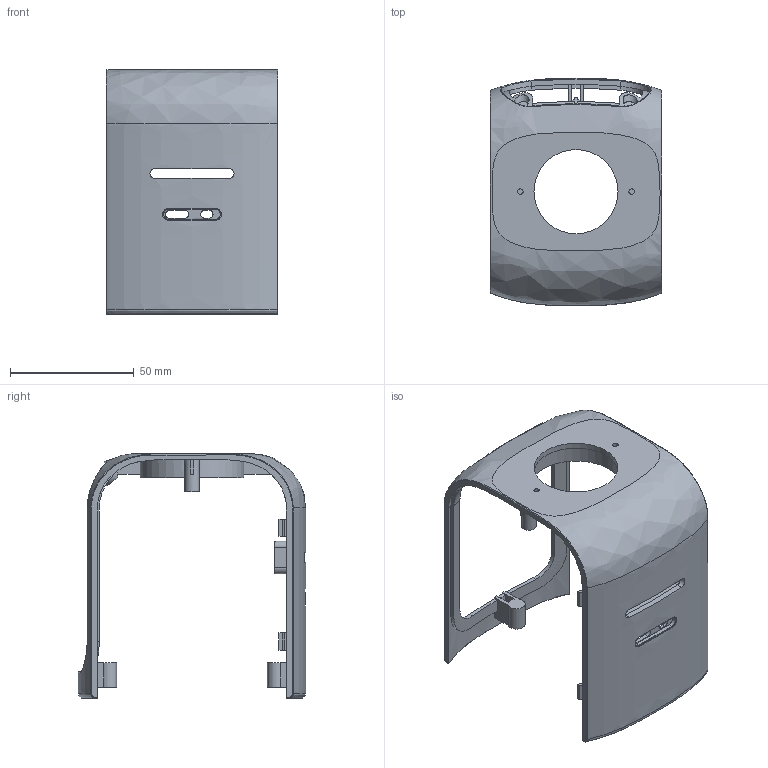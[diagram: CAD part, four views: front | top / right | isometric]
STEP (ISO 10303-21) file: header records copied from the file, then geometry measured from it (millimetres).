
FILE_DESCRIPTION(('Open CASCADE Model'),'2;1');
FILE_NAME('Open CASCADE Shape Model','2026-11-01T16:31:40',('Author'),( 'Open CASCADE'),'Open CASCADE STEP processor 8.0','build123d', 'Unknown');
FILE_SCHEMA(('AUTOMOTIVE_DESIGN { 1 0 10303 214 1 1 1 1 }'));
Products named in the file (1): COMPOUND
Bounding box: 69.4 x 92 x 99 mm (x, y, z)
Volume: 38135.1 mm3; surface area: 36864.8 mm2
Topology: 1 solids, 1 shells, 224 faces, 626 edges, 410 vertices
Faces by surface type: plane 110, cylinder 59, offset 29, bspline 24, extrusion 2
Full cylindrical faces by diameter (mm): 1.7 x2, 2.2 x2, 3.6 x2, 6 x4, 34 x1, 37 x1, 42 x1
Entity records: 128734 total; most frequent: CARTESIAN_POINT 118464, ORIENTED_EDGE 1244, PCURVE 1244, DEFINITIONAL_REPRESENTATION 1244, DIRECTION 1179, B_SPLINE_CURVE_WITH_KNOTS 1041, VECTOR 657, LINE 637
